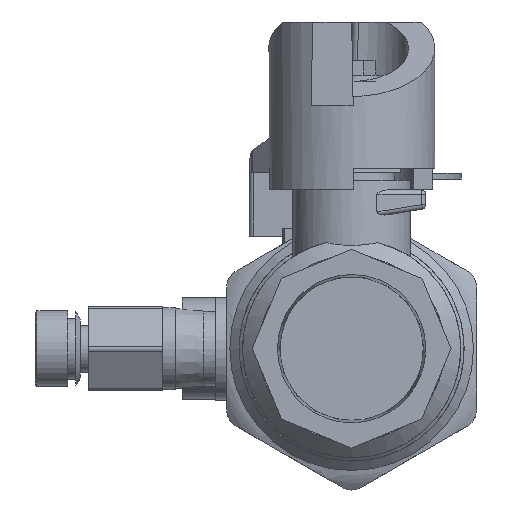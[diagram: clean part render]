
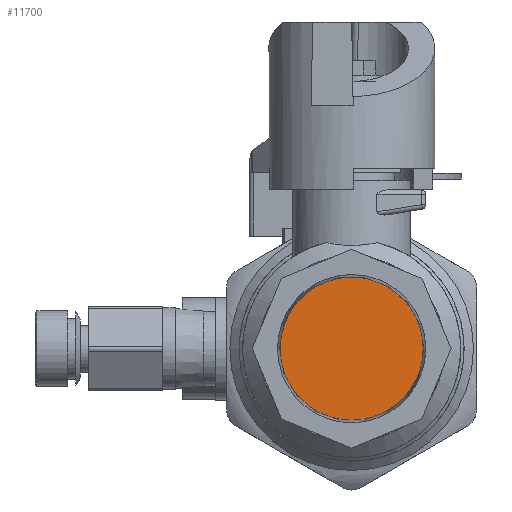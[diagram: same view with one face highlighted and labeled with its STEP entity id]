
A CAD part, left-side view. The second image highlights one B-rep face of the part: STEP entity #11700.
In plain terms, the highlighted planar face has unit normal (-1, 0, 0).
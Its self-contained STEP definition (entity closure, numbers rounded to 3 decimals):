
#9445 = CONICAL_SURFACE('',#9446,0.486,0.031);
#9446 = AXIS2_PLACEMENT_3D('',#9447,#9448,#9449);
#9447 = CARTESIAN_POINT('',(31.798,0.,0.));
#9448 = DIRECTION('',(1.,0.,0.));
#9449 = DIRECTION('',(0.,-1.,0.));
#11648 = VERTEX_POINT('',#11649);
#11649 = CARTESIAN_POINT('',(0.553,0.477,0.));
#11669 = EDGE_CURVE('',#11648,#11648,#11670,.T.);
#11670 = SURFACE_CURVE('',#11671,(#11676,#11683),.PCURVE_S1.);
#11671 = CIRCLE('',#11672,0.477);
#11672 = AXIS2_PLACEMENT_3D('',#11673,#11674,#11675);
#11673 = CARTESIAN_POINT('',(0.553,0.,0.));
#11674 = DIRECTION('',(1.,0.,0.));
#11675 = DIRECTION('',(-0.,1.,0.));
#11676 = PCURVE('',#9445,#11677);
#11677 = DEFINITIONAL_REPRESENTATION('',(#11678),#11682);
#11678 = LINE('',#11679,#11680);
#11679 = CARTESIAN_POINT('',(0.,-31.245));
#11680 = VECTOR('',#11681,1.);
#11681 = DIRECTION('',(1.,0.));
#11682 = ( GEOMETRIC_REPRESENTATION_CONTEXT(2) 
PARAMETRIC_REPRESENTATION_CONTEXT() REPRESENTATION_CONTEXT('2D SPACE',''
  ) );
#11683 = PCURVE('',#11684,#11689);
#11684 = PLANE('',#11685);
#11685 = AXIS2_PLACEMENT_3D('',#11686,#11687,#11688);
#11686 = CARTESIAN_POINT('',(0.553,0.239,0.));
#11687 = DIRECTION('',(-1.,-0.,-0.));
#11688 = DIRECTION('',(-0.,1.,-0.));
#11689 = DEFINITIONAL_REPRESENTATION('',(#11690),#11698);
#11690 = ( BOUNDED_CURVE() B_SPLINE_CURVE(2,(#11691,#11692,#11693,#11694
    ,#11695,#11696,#11697),.UNSPECIFIED.,.T.,.F.) 
B_SPLINE_CURVE_WITH_KNOTS((1,2,2,2,2,1),(-2.094,0.,
    2.094,4.189,6.283,8.378),
.UNSPECIFIED.) CURVE() GEOMETRIC_REPRESENTATION_ITEM() 
RATIONAL_B_SPLINE_CURVE((1.,0.5,1.,0.5,1.,0.5,1.)) REPRESENTATION_ITEM(
  '') );
#11691 = CARTESIAN_POINT('',(0.239,0.));
#11692 = CARTESIAN_POINT('',(0.239,-0.827));
#11693 = CARTESIAN_POINT('',(-0.477,-0.413));
#11694 = CARTESIAN_POINT('',(-1.194,0.));
#11695 = CARTESIAN_POINT('',(-0.477,0.413));
#11696 = CARTESIAN_POINT('',(0.239,0.827));
#11697 = CARTESIAN_POINT('',(0.239,0.));
#11698 = ( GEOMETRIC_REPRESENTATION_CONTEXT(2) 
PARAMETRIC_REPRESENTATION_CONTEXT() REPRESENTATION_CONTEXT('2D SPACE',''
  ) );
#11700 = ADVANCED_FACE('',(#11701),#11684,.T.);
#11701 = FACE_BOUND('',#11702,.T.);
#11702 = EDGE_LOOP('',(#11703));
#11703 = ORIENTED_EDGE('',*,*,#11669,.F.);
